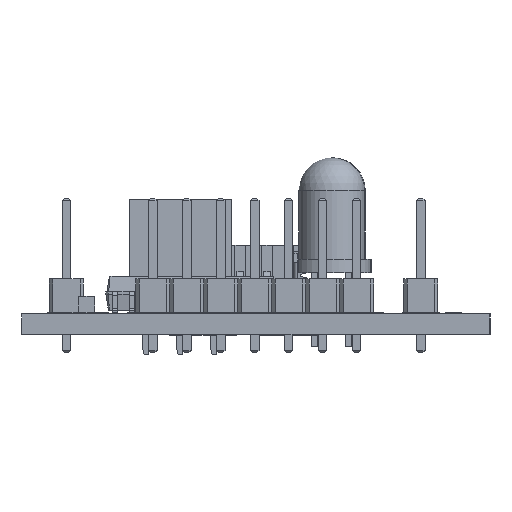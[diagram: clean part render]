
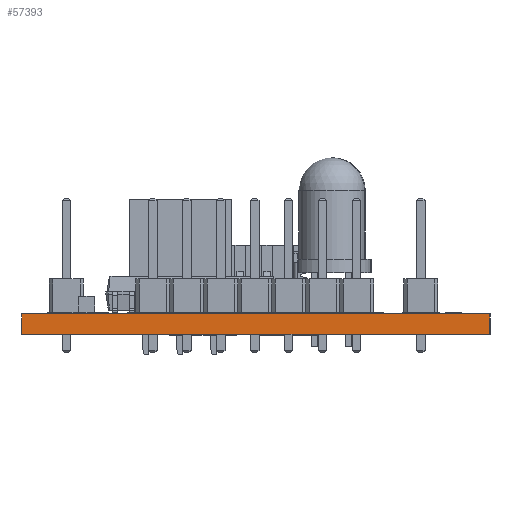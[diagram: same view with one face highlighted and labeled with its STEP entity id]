
A CAD part, left-side view. The second image highlights one B-rep face of the part: STEP entity #57393.
In plain terms, the highlighted planar face has unit normal (-1, 0, 0).
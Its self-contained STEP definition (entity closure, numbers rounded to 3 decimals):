
#57337 = VERTEX_POINT('',#57338);
#57338 = CARTESIAN_POINT('',(68.95,-82.175,1.51));
#57344 = EDGE_CURVE('',#57345,#57337,#57347,.T.);
#57345 = VERTEX_POINT('',#57346);
#57346 = CARTESIAN_POINT('',(68.95,-82.175,0.));
#57347 = LINE('',#57348,#57349);
#57348 = CARTESIAN_POINT('',(68.95,-82.175,0.));
#57349 = VECTOR('',#57350,1.);
#57350 = DIRECTION('',(0.,0.,1.));
#57393 = ADVANCED_FACE('',(#57394),#57419,.T.);
#57394 = FACE_BOUND('',#57395,.T.);
#57395 = EDGE_LOOP('',(#57396,#57397,#57405,#57413));
#57396 = ORIENTED_EDGE('',*,*,#57344,.T.);
#57397 = ORIENTED_EDGE('',*,*,#57398,.T.);
#57398 = EDGE_CURVE('',#57337,#57399,#57401,.T.);
#57399 = VERTEX_POINT('',#57400);
#57400 = CARTESIAN_POINT('',(68.95,-47.175,1.51));
#57401 = LINE('',#57402,#57403);
#57402 = CARTESIAN_POINT('',(68.95,-82.175,1.51));
#57403 = VECTOR('',#57404,1.);
#57404 = DIRECTION('',(0.,1.,0.));
#57405 = ORIENTED_EDGE('',*,*,#57406,.F.);
#57406 = EDGE_CURVE('',#57407,#57399,#57409,.T.);
#57407 = VERTEX_POINT('',#57408);
#57408 = CARTESIAN_POINT('',(68.95,-47.175,0.));
#57409 = LINE('',#57410,#57411);
#57410 = CARTESIAN_POINT('',(68.95,-47.175,0.));
#57411 = VECTOR('',#57412,1.);
#57412 = DIRECTION('',(0.,0.,1.));
#57413 = ORIENTED_EDGE('',*,*,#57414,.F.);
#57414 = EDGE_CURVE('',#57345,#57407,#57415,.T.);
#57415 = LINE('',#57416,#57417);
#57416 = CARTESIAN_POINT('',(68.95,-82.175,0.));
#57417 = VECTOR('',#57418,1.);
#57418 = DIRECTION('',(0.,1.,0.));
#57419 = PLANE('',#57420);
#57420 = AXIS2_PLACEMENT_3D('',#57421,#57422,#57423);
#57421 = CARTESIAN_POINT('',(68.95,-82.175,0.));
#57422 = DIRECTION('',(-1.,0.,0.));
#57423 = DIRECTION('',(0.,1.,0.));
